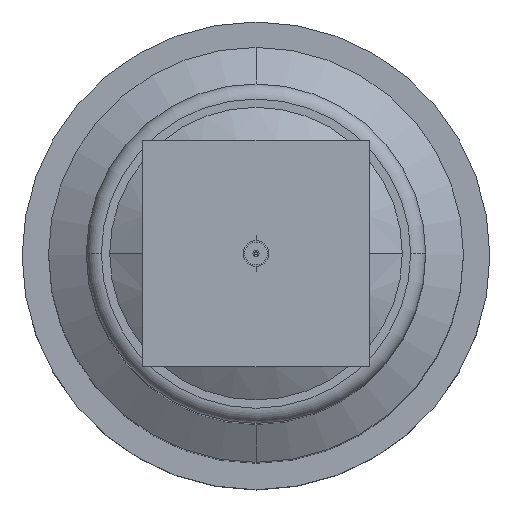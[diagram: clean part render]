
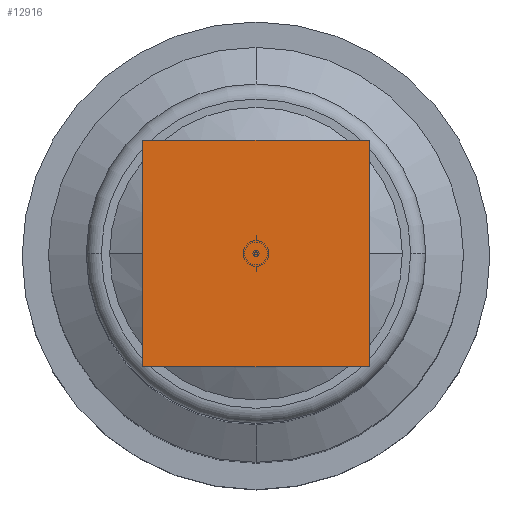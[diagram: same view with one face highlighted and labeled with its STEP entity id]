
A CAD part, top view. The second image highlights one B-rep face of the part: STEP entity #12916.
In plain terms, the highlighted planar face has unit normal (0, 0, 1).
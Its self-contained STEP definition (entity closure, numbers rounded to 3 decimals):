
#137 = DIRECTION ( 'NONE',  ( 1., 0., 0. ) ) ;
#196 = VERTEX_POINT ( 'NONE', #7425 ) ;
#847 = CARTESIAN_POINT ( 'NONE',  ( 0., 0., 220. ) ) ;
#2067 = VERTEX_POINT ( 'NONE', #11536 ) ;
#2241 = VECTOR ( 'NONE', #137, 1000. ) ;
#2459 = ORIENTED_EDGE ( 'NONE', *, *, #14584, .T. ) ;
#3133 = DIRECTION ( 'NONE',  ( 0., 0., 1. ) ) ;
#3452 = VECTOR ( 'NONE', #11043, 1000. ) ;
#4386 = CARTESIAN_POINT ( 'NONE',  ( -15., 15., 220. ) ) ;
#4570 = LINE ( 'NONE', #12728, #2241 ) ;
#4953 = FACE_OUTER_BOUND ( 'NONE', #6960, .T. ) ;
#5334 = PLANE ( 'NONE',  #11243 ) ;
#5438 = EDGE_CURVE ( 'NONE', #2067, #9444, #8074, .T. ) ;
#6016 = CARTESIAN_POINT ( 'NONE',  ( -15., 15., 220. ) ) ;
#6437 = VECTOR ( 'NONE', #11206, 1000. ) ;
#6479 = CARTESIAN_POINT ( 'NONE',  ( 15., 15., 220. ) ) ;
#6960 = EDGE_LOOP ( 'NONE', ( #11874, #2459, #9373, #14578 ) ) ;
#7090 = VERTEX_POINT ( 'NONE', #14213 ) ;
#7425 = CARTESIAN_POINT ( 'NONE',  ( 15., -15., 220. ) ) ;
#7526 = CARTESIAN_POINT ( 'NONE',  ( -15., 15., 220. ) ) ;
#7560 = DIRECTION ( 'NONE',  ( 1., 0., 0. ) ) ;
#8074 = LINE ( 'NONE', #4386, #6437 ) ;
#8227 = EDGE_CURVE ( 'NONE', #196, #2067, #10909, .T. ) ;
#9373 = ORIENTED_EDGE ( 'NONE', *, *, #8227, .T. ) ;
#9444 = VERTEX_POINT ( 'NONE', #6016 ) ;
#10909 = LINE ( 'NONE', #6479, #3452 ) ;
#10994 = LINE ( 'NONE', #7526, #13516 ) ;
#11038 = DIRECTION ( 'NONE',  ( 0., -1., 0. ) ) ;
#11043 = DIRECTION ( 'NONE',  ( 0., 1., 0. ) ) ;
#11206 = DIRECTION ( 'NONE',  ( -1., 0., 0. ) ) ;
#11243 = AXIS2_PLACEMENT_3D ( 'NONE', #847, #3133, #7560 ) ;
#11536 = CARTESIAN_POINT ( 'NONE',  ( 15., 15., 220. ) ) ;
#11874 = ORIENTED_EDGE ( 'NONE', *, *, #12353, .T. ) ;
#12353 = EDGE_CURVE ( 'NONE', #9444, #7090, #10994, .T. ) ;
#12728 = CARTESIAN_POINT ( 'NONE',  ( -15., -15., 220. ) ) ;
#12916 = ADVANCED_FACE ( 'NONE', ( #4953 ), #5334, .T. ) ;
#13516 = VECTOR ( 'NONE', #11038, 1000. ) ;
#14213 = CARTESIAN_POINT ( 'NONE',  ( -15., -15., 220. ) ) ;
#14578 = ORIENTED_EDGE ( 'NONE', *, *, #5438, .T. ) ;
#14584 = EDGE_CURVE ( 'NONE', #7090, #196, #4570, .T. ) ;
